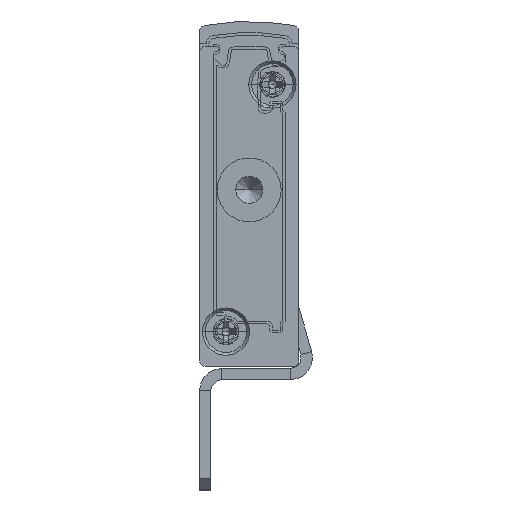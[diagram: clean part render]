
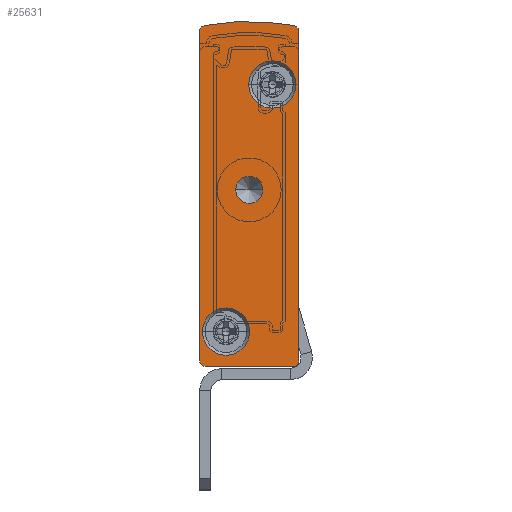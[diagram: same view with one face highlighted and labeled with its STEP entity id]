
A CAD part, front view. The second image highlights one B-rep face of the part: STEP entity #25631.
In plain terms, the highlighted planar face has unit normal (0, -1, 0).
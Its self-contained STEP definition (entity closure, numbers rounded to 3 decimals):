
#218 = ORIENTED_EDGE ( 'NONE', *, *, #8943, .F. ) ;
#1280 = CARTESIAN_POINT ( 'NONE',  ( -0.5, -2.5, 0.5 ) ) ;
#1343 = EDGE_CURVE ( 'NONE', #30071, #5456, #7094, .T. ) ;
#1371 = ORIENTED_EDGE ( 'NONE', *, *, #24576, .F. ) ;
#1668 = ORIENTED_EDGE ( 'NONE', *, *, #6102, .F. ) ;
#1966 = EDGE_CURVE ( 'NONE', #27763, #20029, #24766, .T. ) ;
#1988 = AXIS2_PLACEMENT_3D ( 'NONE', #10897, #4794, #31282 ) ;
#2276 = CARTESIAN_POINT ( 'NONE',  ( -2.4, -2.5, 25.55 ) ) ;
#2388 = DIRECTION ( 'NONE',  ( -1., 0., 0. ) ) ;
#2537 = CARTESIAN_POINT ( 'NONE',  ( -9., -2.5, 30.402 ) ) ;
#2706 = AXIS2_PLACEMENT_3D ( 'NONE', #30321, #12730, #15797 ) ;
#2820 = DIRECTION ( 'NONE',  ( -1., 0., 0. ) ) ;
#3075 = LINE ( 'NONE', #11174, #25408 ) ;
#3655 = ORIENTED_EDGE ( 'NONE', *, *, #8005, .F. ) ;
#4082 = VERTEX_POINT ( 'NONE', #19224 ) ;
#4153 = AXIS2_PLACEMENT_3D ( 'NONE', #2276, #5590, #16791 ) ;
#4198 = LINE ( 'NONE', #4350, #32463 ) ;
#4350 = CARTESIAN_POINT ( 'NONE',  ( -8.5, -2.5, 0. ) ) ;
#4794 = DIRECTION ( 'NONE',  ( 0., -1., 0. ) ) ;
#4799 = CIRCLE ( 'NONE', #18966, 2.15 ) ;
#4821 = VERTEX_POINT ( 'NONE', #18206 ) ;
#4866 = VECTOR ( 'NONE', #13273, 1000. ) ;
#5331 = DIRECTION ( 'NONE',  ( 0., 0., -1. ) ) ;
#5337 = CARTESIAN_POINT ( 'NONE',  ( -8.5, -2.5, 30.402 ) ) ;
#5350 = CIRCLE ( 'NONE', #32287, 1.25 ) ;
#5456 = VERTEX_POINT ( 'NONE', #30635 ) ;
#5590 = DIRECTION ( 'NONE',  ( 0., -1., 0. ) ) ;
#5629 = CARTESIAN_POINT ( 'NONE',  ( -6.6, -2.5, 3.15 ) ) ;
#5661 = CARTESIAN_POINT ( 'NONE',  ( -4.5, -2.5, 7.592 ) ) ;
#6102 = EDGE_CURVE ( 'NONE', #16678, #26109, #4799, .T. ) ;
#6373 = ORIENTED_EDGE ( 'NONE', *, *, #25857, .F. ) ;
#6966 = EDGE_CURVE ( 'NONE', #29377, #11497, #33038, .T. ) ;
#7094 = CIRCLE ( 'NONE', #24319, 1.25 ) ;
#7421 = DIRECTION ( 'NONE',  ( -1., 0., 0. ) ) ;
#8005 = EDGE_CURVE ( 'NONE', #20029, #4821, #32915, .T. ) ;
#8054 = LINE ( 'NONE', #25099, #4866 ) ;
#8121 = EDGE_CURVE ( 'NONE', #11497, #4082, #4198, .T. ) ;
#8128 = CARTESIAN_POINT ( 'NONE',  ( -0.25, -2.5, 25.55 ) ) ;
#8567 = DIRECTION ( 'NONE',  ( 0., -1., 0. ) ) ;
#8578 = EDGE_CURVE ( 'NONE', #32523, #37729, #22941, .T. ) ;
#8606 = CARTESIAN_POINT ( 'NONE',  ( -8.75, -2.5, 3.15 ) ) ;
#8808 = CARTESIAN_POINT ( 'NONE',  ( -4.5, -2.5, 16. ) ) ;
#8943 = EDGE_CURVE ( 'NONE', #37729, #32523, #23287, .T. ) ;
#9199 = ORIENTED_EDGE ( 'NONE', *, *, #1966, .F. ) ;
#9388 = EDGE_CURVE ( 'NONE', #5456, #30071, #5350, .T. ) ;
#9994 = ORIENTED_EDGE ( 'NONE', *, *, #1343, .T. ) ;
#10192 = EDGE_LOOP ( 'NONE', ( #30417, #1371, #6373, #27637, #14907, #21624, #3655, #9199 ) ) ;
#10897 = CARTESIAN_POINT ( 'NONE',  ( -2.4, -2.5, 25.55 ) ) ;
#11174 = CARTESIAN_POINT ( 'NONE',  ( 0., -2.5, 30.402 ) ) ;
#11497 = VERTEX_POINT ( 'NONE', #23575 ) ;
#12730 = DIRECTION ( 'NONE',  ( 0., -1., 0. ) ) ;
#13201 = CARTESIAN_POINT ( 'NONE',  ( -4.45, -2.5, 3.15 ) ) ;
#13273 = DIRECTION ( 'NONE',  ( 0., 0., 1. ) ) ;
#13555 = DIRECTION ( 'NONE',  ( -1., 0., 0. ) ) ;
#13928 = EDGE_LOOP ( 'NONE', ( #31896, #9994 ) ) ;
#14199 = ORIENTED_EDGE ( 'NONE', *, *, #8578, .F. ) ;
#14219 = DIRECTION ( 'NONE',  ( 0., 1., 0. ) ) ;
#14272 = CIRCLE ( 'NONE', #15789, 0.5 ) ;
#14318 = DIRECTION ( 'NONE',  ( 0., 1., 0. ) ) ;
#14438 = DIRECTION ( 'NONE',  ( 1., 0., 0. ) ) ;
#14907 = ORIENTED_EDGE ( 'NONE', *, *, #6966, .F. ) ;
#15645 = FACE_BOUND ( 'NONE', #13928, .T. ) ;
#15789 = AXIS2_PLACEMENT_3D ( 'NONE', #16122, #22104, #24564 ) ;
#15797 = DIRECTION ( 'NONE',  ( 1., 0., 0. ) ) ;
#16122 = CARTESIAN_POINT ( 'NONE',  ( -8.5, -2.5, 0.5 ) ) ;
#16269 = CIRCLE ( 'NONE', #2706, 2.15 ) ;
#16524 = DIRECTION ( 'NONE',  ( 0., 1., 0. ) ) ;
#16532 = FACE_BOUND ( 'NONE', #33667, .T. ) ;
#16678 = VERTEX_POINT ( 'NONE', #13201 ) ;
#16791 = DIRECTION ( 'NONE',  ( 1., 0., 0. ) ) ;
#18206 = CARTESIAN_POINT ( 'NONE',  ( 0., -2.5, 30.402 ) ) ;
#18789 = FACE_OUTER_BOUND ( 'NONE', #10192, .T. ) ;
#18966 = AXIS2_PLACEMENT_3D ( 'NONE', #5629, #8567, #14438 ) ;
#19008 = CARTESIAN_POINT ( 'NONE',  ( -0.5, -2.5, 30.402 ) ) ;
#19224 = CARTESIAN_POINT ( 'NONE',  ( -8.5, -2.5, 0. ) ) ;
#19309 = AXIS2_PLACEMENT_3D ( 'NONE', #19008, #25254, #13555 ) ;
#19467 = DIRECTION ( 'NONE',  ( -1., 0., 0. ) ) ;
#19845 = DIRECTION ( 'NONE',  ( 0., 1., 0. ) ) ;
#20029 = VERTEX_POINT ( 'NONE', #22119 ) ;
#20253 = ORIENTED_EDGE ( 'NONE', *, *, #21130, .F. ) ;
#20884 = EDGE_CURVE ( 'NONE', #4821, #29377, #3075, .T. ) ;
#21130 = EDGE_CURVE ( 'NONE', #26109, #16678, #16269, .T. ) ;
#21624 = ORIENTED_EDGE ( 'NONE', *, *, #20884, .F. ) ;
#22104 = DIRECTION ( 'NONE',  ( 0., 1., 0. ) ) ;
#22119 = CARTESIAN_POINT ( 'NONE',  ( -0.408, -2.5, 30.893 ) ) ;
#22941 = CIRCLE ( 'NONE', #4153, 2.15 ) ;
#22948 = DIRECTION ( 'NONE',  ( -1., 0., 0. ) ) ;
#23287 = CIRCLE ( 'NONE', #1988, 2.15 ) ;
#23575 = CARTESIAN_POINT ( 'NONE',  ( -0.5, -2.5, 0. ) ) ;
#23713 = CARTESIAN_POINT ( 'NONE',  ( -9., -2.5, 0.5 ) ) ;
#24319 = AXIS2_PLACEMENT_3D ( 'NONE', #37339, #19845, #2388 ) ;
#24470 = CARTESIAN_POINT ( 'NONE',  ( 0., -2.5, 0.5 ) ) ;
#24564 = DIRECTION ( 'NONE',  ( -1., 0., 0. ) ) ;
#24576 = EDGE_CURVE ( 'NONE', #31231, #31648, #8054, .T. ) ;
#24592 = DIRECTION ( 'NONE',  ( 0., 1., 0. ) ) ;
#24766 = CIRCLE ( 'NONE', #35248, 23.658 ) ;
#24965 = CARTESIAN_POINT ( 'NONE',  ( -4.55, -2.5, 25.55 ) ) ;
#25099 = CARTESIAN_POINT ( 'NONE',  ( -9., -2.5, 30.402 ) ) ;
#25254 = DIRECTION ( 'NONE',  ( 0., 1., 0. ) ) ;
#25408 = VECTOR ( 'NONE', #5331, 1000. ) ;
#25450 = PLANE ( 'NONE',  #34982 ) ;
#25631 = ADVANCED_FACE ( 'NONE', ( #16532, #35172, #18789, #15645 ), #25450, .F. ) ;
#25857 = EDGE_CURVE ( 'NONE', #4082, #31231, #14272, .T. ) ;
#26109 = VERTEX_POINT ( 'NONE', #8606 ) ;
#27637 = ORIENTED_EDGE ( 'NONE', *, *, #8121, .F. ) ;
#27676 = DIRECTION ( 'NONE',  ( -1., 0., 0. ) ) ;
#27763 = VERTEX_POINT ( 'NONE', #29599 ) ;
#28295 = AXIS2_PLACEMENT_3D ( 'NONE', #28628, #31262, #28491 ) ;
#28310 = AXIS2_PLACEMENT_3D ( 'NONE', #1280, #24592, #27676 ) ;
#28491 = DIRECTION ( 'NONE',  ( -1., 0., 0. ) ) ;
#28628 = CARTESIAN_POINT ( 'NONE',  ( -8.5, -2.5, 30.402 ) ) ;
#29377 = VERTEX_POINT ( 'NONE', #24470 ) ;
#29599 = CARTESIAN_POINT ( 'NONE',  ( -8.592, -2.5, 30.893 ) ) ;
#30071 = VERTEX_POINT ( 'NONE', #36421 ) ;
#30321 = CARTESIAN_POINT ( 'NONE',  ( -6.6, -2.5, 3.15 ) ) ;
#30417 = ORIENTED_EDGE ( 'NONE', *, *, #30889, .F. ) ;
#30635 = CARTESIAN_POINT ( 'NONE',  ( -5.75, -2.5, 16. ) ) ;
#30889 = EDGE_CURVE ( 'NONE', #31648, #27763, #36869, .T. ) ;
#31231 = VERTEX_POINT ( 'NONE', #23713 ) ;
#31262 = DIRECTION ( 'NONE',  ( 0., 1., 0. ) ) ;
#31282 = DIRECTION ( 'NONE',  ( 1., 0., 0. ) ) ;
#31648 = VERTEX_POINT ( 'NONE', #2537 ) ;
#31896 = ORIENTED_EDGE ( 'NONE', *, *, #9388, .T. ) ;
#32287 = AXIS2_PLACEMENT_3D ( 'NONE', #8808, #14318, #22948 ) ;
#32463 = VECTOR ( 'NONE', #7421, 1000. ) ;
#32523 = VERTEX_POINT ( 'NONE', #8128 ) ;
#32915 = CIRCLE ( 'NONE', #19309, 0.5 ) ;
#33038 = CIRCLE ( 'NONE', #28310, 0.5 ) ;
#33667 = EDGE_LOOP ( 'NONE', ( #14199, #218 ) ) ;
#34734 = EDGE_LOOP ( 'NONE', ( #1668, #20253 ) ) ;
#34982 = AXIS2_PLACEMENT_3D ( 'NONE', #5337, #16524, #19467 ) ;
#35172 = FACE_BOUND ( 'NONE', #34734, .T. ) ;
#35248 = AXIS2_PLACEMENT_3D ( 'NONE', #5661, #14219, #2820 ) ;
#36421 = CARTESIAN_POINT ( 'NONE',  ( -3.25, -2.5, 16. ) ) ;
#36869 = CIRCLE ( 'NONE', #28295, 0.5 ) ;
#37339 = CARTESIAN_POINT ( 'NONE',  ( -4.5, -2.5, 16. ) ) ;
#37729 = VERTEX_POINT ( 'NONE', #24965 ) ;
